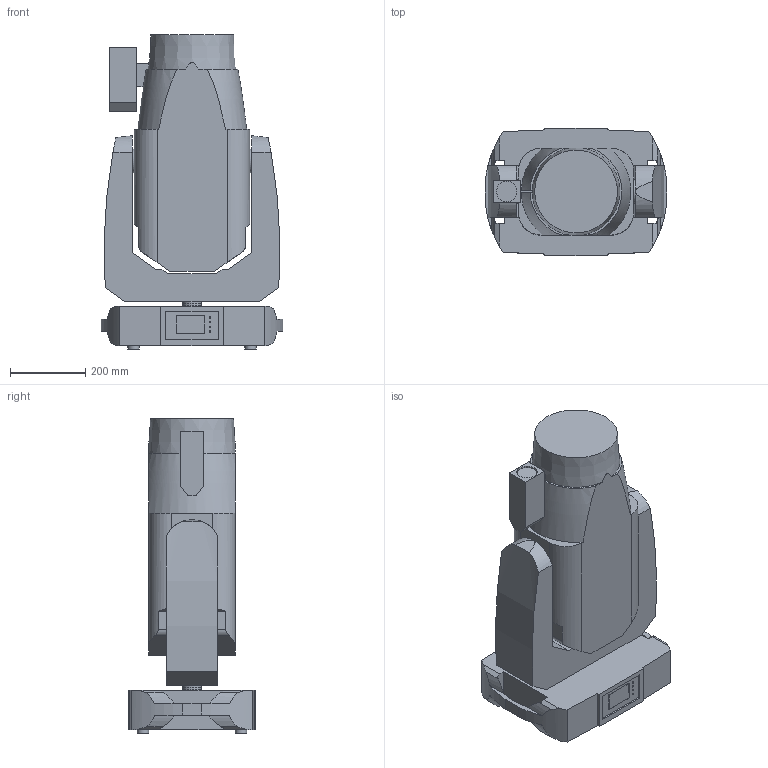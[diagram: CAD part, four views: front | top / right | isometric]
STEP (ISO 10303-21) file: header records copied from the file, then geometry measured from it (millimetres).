
FILE_DESCRIPTION(/* description */ ('Unknown'),/* implementation_level */ '2;1');
FILE_NAME(/* name */ '3D_BMFL_FS_LT',/* time_stamp */ '2020-11-06T10:43:34+01:00',/* author */ ('Ing.Rostislav HĂˇba'),/* organization */ ('ROBE lighting'),/* preprocessor_version */ 'ST-DEVELOPER v16.7',/* originating_system */ 'Solid Edge',/* authorisation */ 'Unknown');
FILE_SCHEMA (('AUTOMOTIVE_DESIGN {1 0 10303 214 3 1 1}'));
Length unit declared in the file: millimetre
Products named in the file (4): 3D_BMFL_FS_LT; BMFL_base; BMFL_arm; BMFL_head_FS_LT
Assembly tree (3 placements, depth 2):
  3D_BMFL_FS_LT
    BMFL_base
    BMFL_arm
    BMFL_head_FS_LT
Bounding box: 482.55 x 339.31 x 833.51 mm (x, y, z)
Volume: 63368939.2 mm3; surface area: 1731871 mm2
Topology: 3 solids, 3 shells, 185 faces, 449 edges, 300 vertices
Faces by surface type: plane 126, cylinder 56, torus 2, cone 1
Full cylindrical faces by diameter (mm): 4.153 x4, 10 x10, 20.926 x6, 30 x4, 34 x2, 50 x2, 53.824 x1, 63 x1
Entity records: 5491 total; most frequent: CARTESIAN_POINT 1113, DIRECTION 888, ORIENTED_EDGE 826, EDGE_CURVE 413, AXIS2_PLACEMENT_3D 320, VERTEX_POINT 295, EDGE_LOOP 252, FACE_BOUND 252
